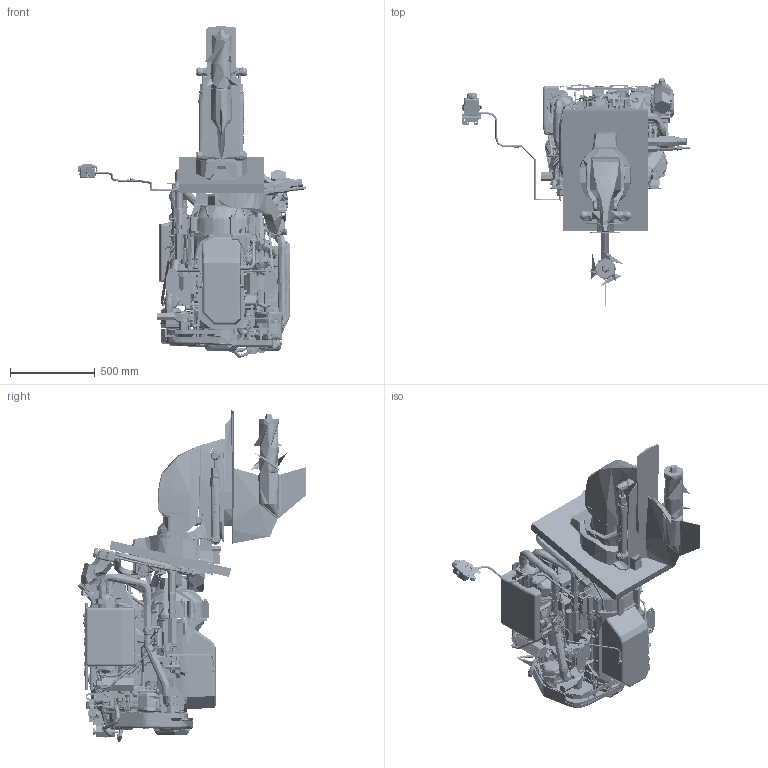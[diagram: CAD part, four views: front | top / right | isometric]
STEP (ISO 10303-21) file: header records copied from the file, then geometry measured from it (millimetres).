
FILE_DESCRIPTION((''),'2;1');
FILE_NAME('00_4LVZ_FULL_ASM','2020-08-20T',('ib46307'),('YANMAR CO., LTD.'),'PRO/ENGINEER BY PARAMETRIC TECHNOLOGY CORPORATION, 2017170','PRO/ENGINEER BY PARAMETRIC TECHNOLOGY CORPORATION, 2017170','');
FILE_SCHEMA(('CONFIG_CONTROL_DESIGN'));
Products named in the file (129): 4LV150_048; 4LV150_047; 4LV150_041; 4LV150_014; 4LV150_010; 4LV150_009; 4LV150_046; 4LV150_008; 4LV150_034; 4LV150_033; 4LV150_032; 4LV150_031; 4LV150_030; 4LV150_029; 4LV150_028; 4LV150_027; 4LV150_026; 4LV150_024; 4LV150_023; 4LV150_022; 4LV150_020; 4LV150_019; 4LV150_018; 4LV150_017; 4LV150_016; 4LV150_015; 4LV150_013; 4LV150_012; 4LV150_LP; 4LV150_038; 4LV150_042; 4LV150_007; 4LV150_006; 4LV150_005; 4LV150_004; 4LV150_003; 4LV150_002; 4LV150_037; 4LV150_021; 4LV150_036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
Assembly tree (168 placements, depth 6):
  00_4LVZ_FULL_ASM
    01_4LV195_BASE_ASM
      4LV_195_BASE_ASM
        4LV150_048
        4LV150_047
        4LV150_041
        4LV150_014
        4LV150_010
        4LV150_009
        4LV150_046
        4LV150_008
        4LV150_034
        4LV150_033
        4LV150_032
        4LV150_031
        4LV150_030
        4LV150_029
        4LV150_028
        4LV150_027
        4LV150_026
        4LV150_024
        4LV150_023
        4LV150_022
        4LV150_020
        4LV150_019
        4LV150_018
        4LV150_017
        4LV150_016
        4LV150_015
        4LV150_013
        4LV150_012
        4LV150_LP
        4LV150_038
        4LV150_042
        4LV150_007
        4LV150_006
        4LV150_005
        4LV150_004
        4LV150_003
        4LV150_002
        4LV150_037
        4LV150_021
        4LV150_036
    01_4LV250_BASE_ASM
      4LV_250_BASE_ASM
        4LV150_048
        4LV150_047
        4LV150_041
        4LV150_014
        4LV150_010
        4LV150_009
        4LV150_046
        4LV150_008
        4LV150_034
        4LV150_033
        4LV150_032
        4LV150_031
        4LV150_030
        4LV150_029
        4LV150_028
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Bounding box: 1343.9 x 1347.86 x 1954.3 mm (x, y, z)
Topology: 127 solids, 472 shells, 29603 faces, 83782 edges, 54800 vertices
Faces by surface type: plane 11104, cylinder 10044, bspline 3147, torus 2861, cone 1841, sphere 332, extrusion 261, revolution 13
Full cylindrical faces by diameter (mm): 39 x2
Entity records: 991011 total; most frequent: CARTESIAN_POINT 417299, ORIENTED_EDGE 122931, DIRECTION 112937, EDGE_CURVE 64633, AXIS2_PLACEMENT_3D 42903, VERTEX_POINT 42595, VECTOR 27124, LINE 26938
